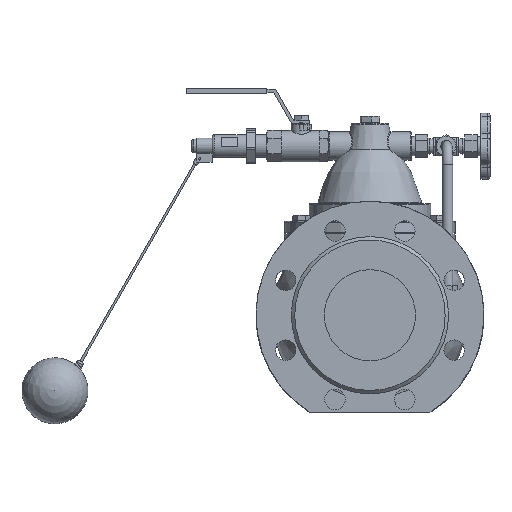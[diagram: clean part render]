
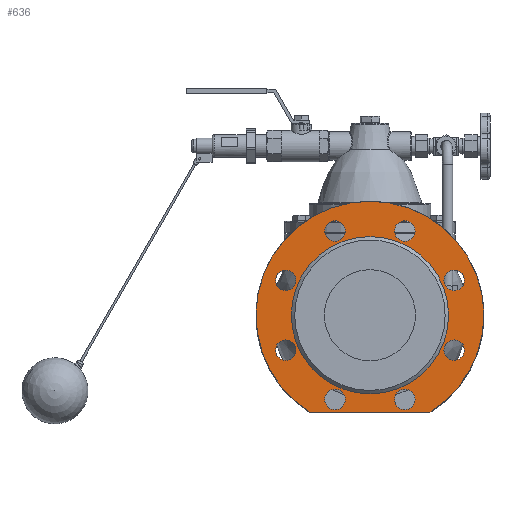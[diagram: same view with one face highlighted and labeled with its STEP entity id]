
A CAD part, top view. The second image highlights one B-rep face of the part: STEP entity #636.
In plain terms, the highlighted planar face has unit normal (0, 0, 1).
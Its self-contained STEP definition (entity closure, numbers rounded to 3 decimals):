
#636=ADVANCED_FACE('',(#4179,#4181,#4183,#4185,#4187,#4189,#4191,#4193,#4195,#4197),
#4199,.F.);
#4179=FACE_BOUND('',#4180,.T.);
#4180=EDGE_LOOP('',(#10473,#10474));
#4181=FACE_BOUND('',#4182,.T.);
#4182=EDGE_LOOP('',(#10475));
#4183=FACE_BOUND('',#4184,.T.);
#4184=EDGE_LOOP('',(#10476));
#4185=FACE_BOUND('',#4186,.T.);
#4186=EDGE_LOOP('',(#10477));
#4187=FACE_BOUND('',#4188,.T.);
#4188=EDGE_LOOP('',(#10478));
#4189=FACE_BOUND('',#4190,.T.);
#4190=EDGE_LOOP('',(#10479));
#4191=FACE_BOUND('',#4192,.T.);
#4192=EDGE_LOOP('',(#10480));
#4193=FACE_BOUND('',#4194,.T.);
#4194=EDGE_LOOP('',(#10481));
#4195=FACE_BOUND('',#4196,.T.);
#4196=EDGE_LOOP('',(#10482));
#4197=FACE_BOUND('',#4198,.T.);
#4198=EDGE_LOOP('',(#10483));
#4199=PLANE('',#4200);
#4200=AXIS2_PLACEMENT_3D('',#4201,#4202,#4203);
#4201=CARTESIAN_POINT('',(0.,0.,124.5));
#4202=DIRECTION('',(0.,0.,-1.));
#4203=DIRECTION('',(-1.,0.,0.));
#10473=ORIENTED_EDGE('',*,*,#13765,.T.);
#10474=ORIENTED_EDGE('',*,*,#13817,.F.);
#10475=ORIENTED_EDGE('',*,*,#13818,.T.);
#10476=ORIENTED_EDGE('',*,*,#13769,.F.);
#10477=ORIENTED_EDGE('',*,*,#13770,.F.);
#10478=ORIENTED_EDGE('',*,*,#13771,.F.);
#10479=ORIENTED_EDGE('',*,*,#13772,.F.);
#10480=ORIENTED_EDGE('',*,*,#13773,.F.);
#10481=ORIENTED_EDGE('',*,*,#13774,.F.);
#10482=ORIENTED_EDGE('',*,*,#13775,.F.);
#10483=ORIENTED_EDGE('',*,*,#13776,.F.);
#13765=EDGE_CURVE('',#15877,#15875,#15878,.T.);
#13769=EDGE_CURVE('',#15883,#15883,#15884,.T.);
#13770=EDGE_CURVE('',#15885,#15885,#15886,.T.);
#13771=EDGE_CURVE('',#15887,#15887,#15888,.T.);
#13772=EDGE_CURVE('',#15889,#15889,#15890,.T.);
#13773=EDGE_CURVE('',#15891,#15891,#15892,.T.);
#13774=EDGE_CURVE('',#15893,#15893,#15894,.T.);
#13775=EDGE_CURVE('',#15895,#15895,#15896,.T.);
#13776=EDGE_CURVE('',#15897,#15897,#15898,.T.);
#13817=EDGE_CURVE('',#15877,#15875,#15972,.T.);
#13818=EDGE_CURVE('',#15973,#15973,#15974,.T.);
#15875=VERTEX_POINT('',#23283);
#15877=VERTEX_POINT('',#23287);
#15878=LINE('',#23288,#23289);
#15883=VERTEX_POINT('',#23432);
#15884=CIRCLE('',#23433,9.);
#15885=VERTEX_POINT('',#23437);
#15886=CIRCLE('',#23438,9.);
#15887=VERTEX_POINT('',#23442);
#15888=CIRCLE('',#23443,9.);
#15889=VERTEX_POINT('',#23447);
#15890=CIRCLE('',#23448,9.);
#15891=VERTEX_POINT('',#23452);
#15892=CIRCLE('',#23453,9.);
#15893=VERTEX_POINT('',#23457);
#15894=CIRCLE('',#23458,9.);
#15895=VERTEX_POINT('',#23462);
#15896=CIRCLE('',#23463,9.);
#15897=VERTEX_POINT('',#23467);
#15898=CIRCLE('',#23468,9.);
#15972=CIRCLE('',#23645,100.);
#15973=VERTEX_POINT('',#23649);
#15974=CIRCLE('',#23650,69.);
#23283=CARTESIAN_POINT('',(52.678,-85.,124.5));
#23287=CARTESIAN_POINT('',(-52.678,-85.,124.5));
#23288=CARTESIAN_POINT('',(-52.678,-85.,124.5));
#23289=VECTOR('',#23290,1.);
#23290=DIRECTION('',(1.,0.,0.));
#23432=CARTESIAN_POINT('',(-82.91,-30.615,124.5));
#23433=AXIS2_PLACEMENT_3D('',#23434,#23435,#23436);
#23434=CARTESIAN_POINT('',(-73.91,-30.615,124.5));
#23435=DIRECTION('',(0.,0.,1.));
#23436=DIRECTION('',(-1.,0.,0.));
#23437=CARTESIAN_POINT('',(-82.91,30.615,124.5));
#23438=AXIS2_PLACEMENT_3D('',#23439,#23440,#23441);
#23439=CARTESIAN_POINT('',(-73.91,30.615,124.5));
#23440=DIRECTION('',(0.,0.,1.));
#23441=DIRECTION('',(-1.,0.,0.));
#23442=CARTESIAN_POINT('',(-39.615,73.91,124.5));
#23443=AXIS2_PLACEMENT_3D('',#23444,#23445,#23446);
#23444=CARTESIAN_POINT('',(-30.615,73.91,124.5));
#23445=DIRECTION('',(0.,0.,1.));
#23446=DIRECTION('',(-1.,0.,0.));
#23447=CARTESIAN_POINT('',(21.615,73.91,124.5));
#23448=AXIS2_PLACEMENT_3D('',#23449,#23450,#23451);
#23449=CARTESIAN_POINT('',(30.615,73.91,124.5));
#23450=DIRECTION('',(0.,0.,1.));
#23451=DIRECTION('',(-1.,0.,0.));
#23452=CARTESIAN_POINT('',(64.91,30.615,124.5));
#23453=AXIS2_PLACEMENT_3D('',#23454,#23455,#23456);
#23454=CARTESIAN_POINT('',(73.91,30.615,124.5));
#23455=DIRECTION('',(0.,0.,1.));
#23456=DIRECTION('',(-1.,0.,0.));
#23457=CARTESIAN_POINT('',(64.91,-30.615,124.5));
#23458=AXIS2_PLACEMENT_3D('',#23459,#23460,#23461);
#23459=CARTESIAN_POINT('',(73.91,-30.615,124.5));
#23460=DIRECTION('',(0.,0.,1.));
#23461=DIRECTION('',(-1.,0.,0.));
#23462=CARTESIAN_POINT('',(21.615,-73.91,124.5));
#23463=AXIS2_PLACEMENT_3D('',#23464,#23465,#23466);
#23464=CARTESIAN_POINT('',(30.615,-73.91,124.5));
#23465=DIRECTION('',(0.,0.,1.));
#23466=DIRECTION('',(-1.,0.,0.));
#23467=CARTESIAN_POINT('',(-39.615,-73.91,124.5));
#23468=AXIS2_PLACEMENT_3D('',#23469,#23470,#23471);
#23469=CARTESIAN_POINT('',(-30.615,-73.91,124.5));
#23470=DIRECTION('',(0.,0.,1.));
#23471=DIRECTION('',(-1.,0.,0.));
#23645=AXIS2_PLACEMENT_3D('',#23646,#23647,#23648);
#23646=CARTESIAN_POINT('',(0.,0.,124.5));
#23647=DIRECTION('',(0.,0.,-1.));
#23648=DIRECTION('',(-0.527,-0.85,0.));
#23649=CARTESIAN_POINT('',(-69.,0.,124.5));
#23650=AXIS2_PLACEMENT_3D('',#23651,#23652,#23653);
#23651=CARTESIAN_POINT('',(0.,0.,124.5));
#23652=DIRECTION('',(0.,0.,-1.));
#23653=DIRECTION('',(-1.,0.,0.));
